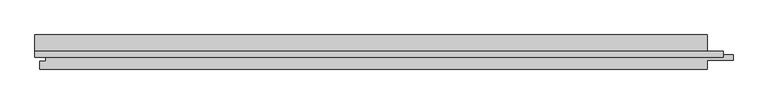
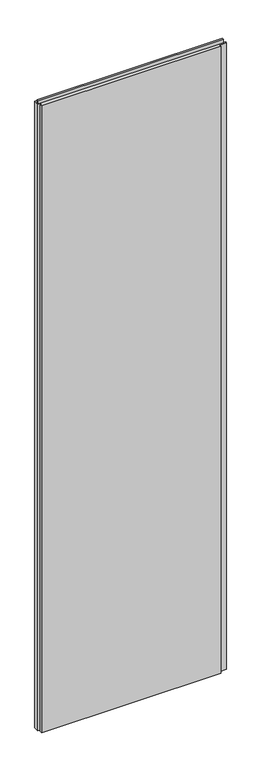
"""IFC4 building model written with IfcOpenShell, lengths in millimetres: plate geometry, Trimo_Qbiss Screen_Normal Panel-VERTICAL : HR - B."""

from ifc_helpers import new_model, si_unit, frame, origin, place, context, project, spatial, polyline, outline, extrude, source, transform, mapped, element, save


def plate_214ba543(model_context):
    return source(origin(), model_context, "Body", "SweptSolid", [
        extrude(outline(polyline([(478.0, 97.0), (478.0, 102.6), (499.0, 102.6), (499.0, 97.0), (478.0, 97.0)])), frame((0.0, 0.0, 12.5), z_axis=(0.0, 0.0, 1.0), x_axis=(1.0, 0.0, 0.0)), (0.0, 0.0, 1.0), 3575.0),
        extrude(outline(polyline([(-500.0, 93.9), (-500.0, 102.6), (500.0, 102.6), (500.0, 93.9), (-500.0, 93.9)])), frame((0.0, 0.0, 3590.5), z_axis=(0.0, 0.0, 1.0), x_axis=(1.0, 0.0, 0.0)), (0.0, 0.0, 1.0), 19.0),
        extrude(outline(polyline([(477.0, 97.0), (514.5, 97.0), (514.5, 89.0), (477.0, 89.0), (477.0, 76.0), (-493.0, 76.0), (-493.0, 88.0), (-484.5, 88.0), (-484.5, 98.0), (-500.0, 98.0), (-500.0, 126.0), (477.0, 126.0), (477.0, 97.0)])), frame((0.0, 0.0, 12.5), z_axis=(0.0, 0.0, 1.0), x_axis=(1.0, 0.0, 0.0)), (0.0, 0.0, 1.0), 3575.0),
    ])


if __name__ == "__main__":
    model = new_model("IFC4")
    model_context = context("Model", 3, world=origin())
    ifc_project = project(units=[si_unit("LENGTHUNIT", "METRE", prefix="MILLI")], contexts=[model_context])
    site = spatial("IfcSite", under=ifc_project)
    building = spatial("IfcBuilding", under=site)
    placement = place(None, origin())
    plate_shape = plate_214ba543(model_context)
    element("IfcPlate", 1, ObjectType="Trimo_Qbiss Screen_Normal Panel-VERTICAL : HR - B", at=placement, inside=building, context=model_context, shape_type="MappedRepresentation", body=[
        mapped(plate_shape, transform((0.0, 0.0, 0.0), x_axis=(1.0, 0.0, 0.0), y_axis=(0.0, 1.0, 0.0), z_axis=(0.0, 0.0, 1.0))),
    ])
    save(model, "model.ifc")
